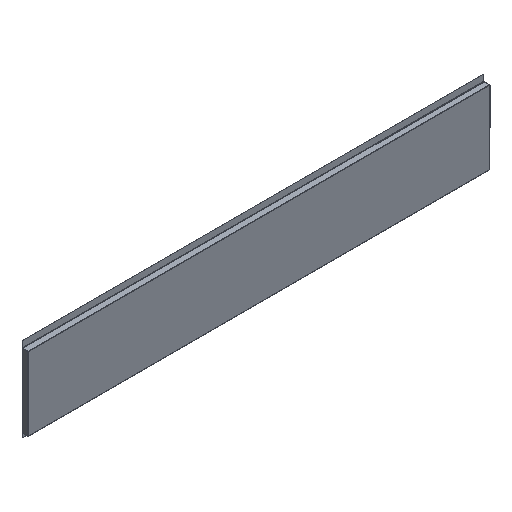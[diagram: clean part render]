
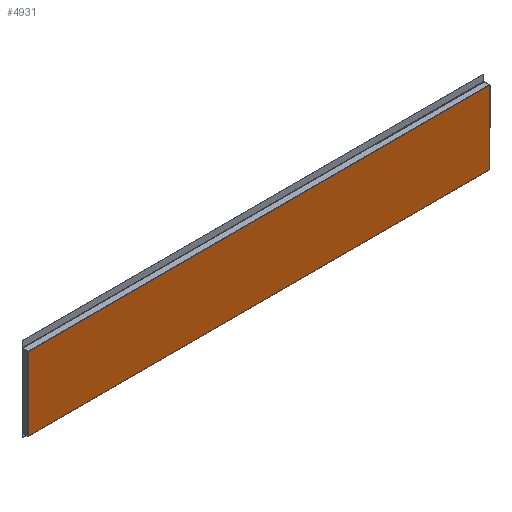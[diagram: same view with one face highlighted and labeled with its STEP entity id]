
A CAD part, isometric view. The second image highlights one B-rep face of the part: STEP entity #4931.
In plain terms, the highlighted planar face has unit normal (0, -1, 0).
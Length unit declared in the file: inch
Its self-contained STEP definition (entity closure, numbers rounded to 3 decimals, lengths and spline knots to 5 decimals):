
#651=FACE_OUTER_BOUND('',#893,.T.);
#893=EDGE_LOOP('',(#4005,#4006,#4007,#4008,#4009,#4010,#4011,#4012));
#1427=LINE('',#8085,#1911);
#1432=LINE('',#8097,#1916);
#1438=LINE('',#8111,#1922);
#1447=LINE('',#8129,#1931);
#1448=LINE('',#8131,#1932);
#1449=LINE('',#8133,#1933);
#1450=LINE('',#8135,#1934);
#1451=LINE('',#8136,#1935);
#1911=VECTOR('',#6654,39.37008);
#1916=VECTOR('',#6665,0.03937);
#1922=VECTOR('',#6675,39.37008);
#1931=VECTOR('',#6692,0.03937);
#1932=VECTOR('',#6693,39.37008);
#1933=VECTOR('',#6694,39.37008);
#1934=VECTOR('',#6695,39.37008);
#1935=VECTOR('',#6696,0.03937);
#2393=VERTEX_POINT('',#8059);
#2404=VERTEX_POINT('',#8083);
#2408=VERTEX_POINT('',#8095);
#2414=VERTEX_POINT('',#8109);
#2419=VERTEX_POINT('',#8128);
#2420=VERTEX_POINT('',#8130);
#2421=VERTEX_POINT('',#8132);
#2422=VERTEX_POINT('',#8134);
#3069=EDGE_CURVE('',#2393,#2404,#1427,.T.);
#3075=EDGE_CURVE('',#2408,#2404,#1432,.T.);
#3082=EDGE_CURVE('',#2414,#2408,#1438,.T.);
#3091=EDGE_CURVE('',#2419,#2414,#1447,.T.);
#3092=EDGE_CURVE('',#2420,#2419,#1448,.T.);
#3093=EDGE_CURVE('',#2420,#2421,#1449,.T.);
#3094=EDGE_CURVE('',#2421,#2422,#1450,.T.);
#3095=EDGE_CURVE('',#2393,#2422,#1451,.T.);
#4005=ORIENTED_EDGE('',*,*,#3075,.F.);
#4006=ORIENTED_EDGE('',*,*,#3082,.F.);
#4007=ORIENTED_EDGE('',*,*,#3091,.F.);
#4008=ORIENTED_EDGE('',*,*,#3092,.F.);
#4009=ORIENTED_EDGE('',*,*,#3093,.T.);
#4010=ORIENTED_EDGE('',*,*,#3094,.T.);
#4011=ORIENTED_EDGE('',*,*,#3095,.F.);
#4012=ORIENTED_EDGE('',*,*,#3069,.T.);
#4703=PLANE('',#5400);
#4931=ADVANCED_FACE('',(#651),#4703,.T.);
#5400=AXIS2_PLACEMENT_3D('',#8127,#6690,#6691);
#6654=DIRECTION('',(1.,0.,0.));
#6665=DIRECTION('',(0.,0.,-1.));
#6675=DIRECTION('',(1.,0.,0.));
#6690=DIRECTION('center_axis',(0.,-1.,0.));
#6691=DIRECTION('ref_axis',(0.,0.,-1.));
#6692=DIRECTION('',(1.,0.,0.));
#6693=DIRECTION('',(1.,0.,0.));
#6694=DIRECTION('',(0.,0.,-1.));
#6695=DIRECTION('',(1.,0.,0.));
#6696=DIRECTION('',(-1.,0.,0.));
#8059=CARTESIAN_POINT('',(395.3125,7.8069,51.548));
#8083=CARTESIAN_POINT('',(395.324,7.8069,51.548));
#8085=CARTESIAN_POINT('',(371.324,7.8069,51.548));
#8095=CARTESIAN_POINT('',(395.324,7.8069,62.932));
#8097=CARTESIAN_POINT('',(395.324,7.8069,57.3025));
#8109=CARTESIAN_POINT('',(395.3125,7.8069,62.932));
#8111=CARTESIAN_POINT('',(371.324,7.8069,62.932));
#8127=CARTESIAN_POINT('Origin',(371.3125,7.8069,51.548));
#8128=CARTESIAN_POINT('',(323.4375,7.8069,62.932));
#8129=CARTESIAN_POINT('',(371.3125,7.8069,62.932));
#8130=CARTESIAN_POINT('',(323.426,7.8069,62.932));
#8131=CARTESIAN_POINT('',(323.426,7.8069,62.932));
#8132=CARTESIAN_POINT('',(323.426,7.8069,51.548));
#8133=CARTESIAN_POINT('',(323.426,7.8069,63.057));
#8134=CARTESIAN_POINT('',(323.4375,7.8069,51.548));
#8135=CARTESIAN_POINT('',(323.426,7.8069,51.548));
#8136=CARTESIAN_POINT('',(371.3125,7.8069,51.548));
